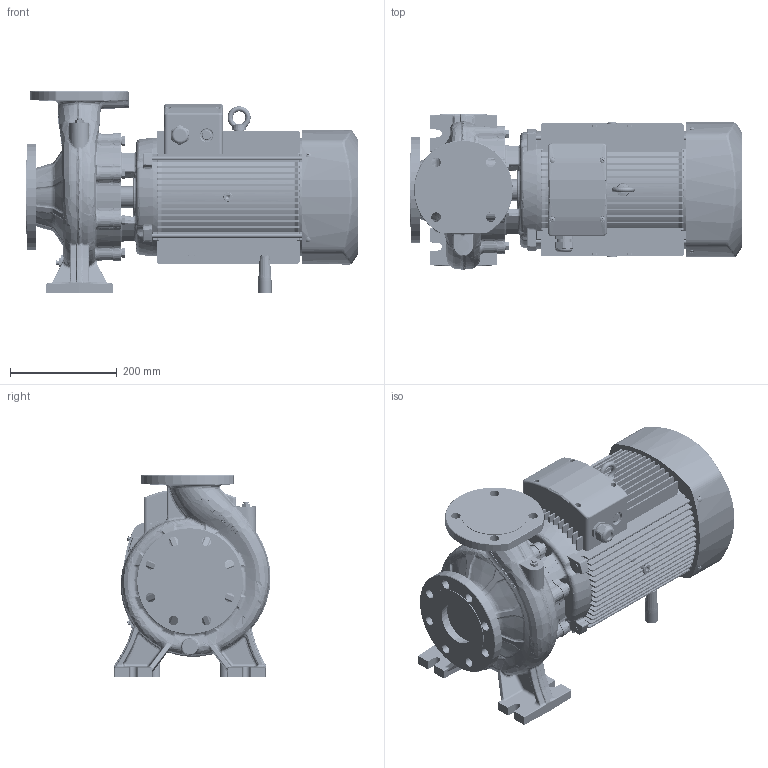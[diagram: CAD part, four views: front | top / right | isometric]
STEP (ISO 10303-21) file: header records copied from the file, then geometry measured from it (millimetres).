
FILE_DESCRIPTION (( 'STEP AP203' ), '1' );
FILE_NAME ('TST65-160-11 15 安装尺寸图.stp.STEP', '2026-04-28T09:25:09', ( '微软用户' ), ( '微软中国' ), 'SwSTEP 2.0', 'SolidWorks 2020', '' );
FILE_SCHEMA (( 'CONFIG_CONTROL_DESIGN' ));
Products named in the file (1): TST65-160-11 15 假蚾喜渡芞.stp
Bounding box: 622 x 293.79 x 380.13 mm (x, y, z)
Volume: 27059757.6 mm3; surface area: 1580680.8 mm2
Topology: 1 solids, 3 shells, 5166 faces, 13009 edges, 8179 vertices
Faces by surface type: cylinder 1606, plane 1487, bspline 1145, torus 442, cone 377, sphere 109
Entity records: 298476 total; most frequent: CARTESIAN_POINT 182706, ORIENTED_EDGE 25966, DIRECTION 21980, EDGE_CURVE 12983, AXIS2_PLACEMENT_3D 8933, VERTEX_POINT 8179, EDGE_LOOP 5622, FACE_OUTER_BOUND 5166
